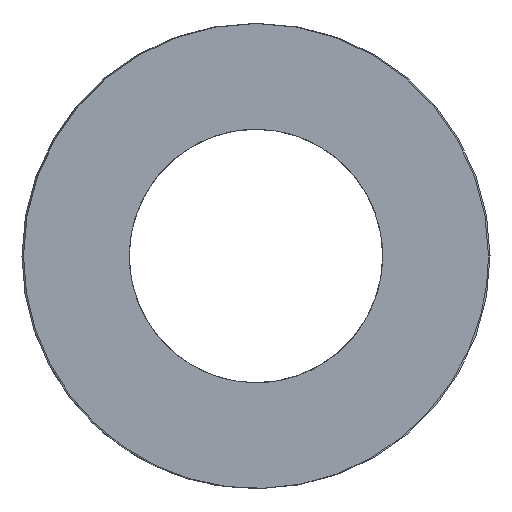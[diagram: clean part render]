
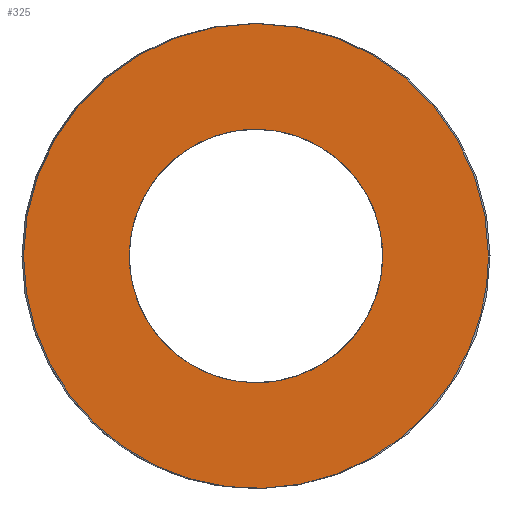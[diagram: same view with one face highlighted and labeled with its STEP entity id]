
A CAD part, left-side view. The second image highlights one B-rep face of the part: STEP entity #325.
In plain terms, the highlighted planar face has unit normal (-1, 0, 0).
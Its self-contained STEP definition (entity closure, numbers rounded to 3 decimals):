
#63=CARTESIAN_POINT('Vertex',(0.,24.4,0.)) ;
#89=CARTESIAN_POINT('Vertex',(0.,-24.4,0.)) ;
#93=CARTESIAN_POINT('Control Point',(0.,24.4,0.)) ;
#94=CARTESIAN_POINT('Control Point',(0.,24.4,-3.833)) ;
#95=CARTESIAN_POINT('Control Point',(0.,23.647,-7.665)) ;
#96=CARTESIAN_POINT('Control Point',(0.,22.142,-11.301)) ;
#97=CARTESIAN_POINT('Control Point',(0.,17.786,-17.786)) ;
#98=CARTESIAN_POINT('Control Point',(0.,11.301,-22.142)) ;
#99=CARTESIAN_POINT('Control Point',(0.,7.665,-23.647)) ;
#100=CARTESIAN_POINT('Control Point',(0.,0.,-25.153)) ;
#101=CARTESIAN_POINT('Control Point',(0.,-7.665,-23.647)) ;
#102=CARTESIAN_POINT('Control Point',(0.,-11.301,-22.142)) ;
#103=CARTESIAN_POINT('Control Point',(0.,-17.786,-17.786)) ;
#104=CARTESIAN_POINT('Control Point',(0.,-22.142,-11.301)) ;
#105=CARTESIAN_POINT('Control Point',(0.,-23.647,-7.665)) ;
#106=CARTESIAN_POINT('Control Point',(0.,-24.4,-3.833)) ;
#107=CARTESIAN_POINT('Control Point',(0.,-24.4,0.)) ;
#121=CARTESIAN_POINT('Axis2P3D Location',(0.,0.,0.)) ;
#256=CARTESIAN_POINT('Axis2P3D Location',(0.,12.2,0.)) ;
#266=CARTESIAN_POINT('Control Point',(0.,0.,-13.3)) ;
#267=CARTESIAN_POINT('Control Point',(0.,1.251,-13.3)) ;
#268=CARTESIAN_POINT('Control Point',(0.,2.501,-13.153)) ;
#269=CARTESIAN_POINT('Control Point',(0.,3.729,-12.859)) ;
#270=CARTESIAN_POINT('Control Point',(0.,6.092,-11.988)) ;
#271=CARTESIAN_POINT('Control Point',(0.,8.189,-10.593)) ;
#272=CARTESIAN_POINT('Control Point',(0.,9.15,-9.774)) ;
#273=CARTESIAN_POINT('Control Point',(0.,10.862,-7.927)) ;
#274=CARTESIAN_POINT('Control Point',(0.,12.099,-5.734)) ;
#275=CARTESIAN_POINT('Control Point',(0.,12.585,-4.569)) ;
#276=CARTESIAN_POINT('Control Point',(0.,13.275,-2.146)) ;
#277=CARTESIAN_POINT('Control Point',(0.,13.384,0.37)) ;
#278=CARTESIAN_POINT('Control Point',(0.,13.289,1.628)) ;
#279=CARTESIAN_POINT('Control Point',(0.,12.807,4.1)) ;
#280=CARTESIAN_POINT('Control Point',(0.,11.764,6.393)) ;
#281=CARTESIAN_POINT('Control Point',(0.,11.11,7.472)) ;
#282=CARTESIAN_POINT('Control Point',(0.,9.56,9.457)) ;
#283=CARTESIAN_POINT('Control Point',(0.,7.591,11.029)) ;
#284=CARTESIAN_POINT('Control Point',(0.,6.519,11.694)) ;
#285=CARTESIAN_POINT('Control Point',(0.,4.601,12.592)) ;
#286=CARTESIAN_POINT('Control Point',(0.,2.551,13.095)) ;
#287=CARTESIAN_POINT('Control Point',(0.,1.706,13.232)) ;
#288=CARTESIAN_POINT('Control Point',(0.,0.853,13.3)) ;
#289=CARTESIAN_POINT('Control Point',(0.,0.,13.3)) ;
#290=CARTESIAN_POINT('Vertex',(0.,0.,-13.3)) ;
#292=CARTESIAN_POINT('Vertex',(0.,0.,13.3)) ;
#296=CARTESIAN_POINT('Control Point',(0.,0.,13.3)) ;
#297=CARTESIAN_POINT('Control Point',(0.,-1.251,13.3)) ;
#298=CARTESIAN_POINT('Control Point',(0.,-2.501,13.153)) ;
#299=CARTESIAN_POINT('Control Point',(0.,-3.729,12.859)) ;
#300=CARTESIAN_POINT('Control Point',(0.,-6.092,11.988)) ;
#301=CARTESIAN_POINT('Control Point',(0.,-8.189,10.593)) ;
#302=CARTESIAN_POINT('Control Point',(0.,-9.15,9.774)) ;
#303=CARTESIAN_POINT('Control Point',(0.,-10.862,7.927)) ;
#304=CARTESIAN_POINT('Control Point',(0.,-12.099,5.734)) ;
#305=CARTESIAN_POINT('Control Point',(0.,-12.585,4.569)) ;
#306=CARTESIAN_POINT('Control Point',(0.,-13.275,2.146)) ;
#307=CARTESIAN_POINT('Control Point',(0.,-13.384,-0.37)) ;
#308=CARTESIAN_POINT('Control Point',(0.,-13.289,-1.628)) ;
#309=CARTESIAN_POINT('Control Point',(0.,-12.807,-4.1)) ;
#310=CARTESIAN_POINT('Control Point',(0.,-11.764,-6.393)) ;
#311=CARTESIAN_POINT('Control Point',(0.,-11.11,-7.472)) ;
#312=CARTESIAN_POINT('Control Point',(0.,-9.56,-9.457)) ;
#313=CARTESIAN_POINT('Control Point',(0.,-7.591,-11.029)) ;
#314=CARTESIAN_POINT('Control Point',(0.,-6.519,-11.694)) ;
#315=CARTESIAN_POINT('Control Point',(0.,-4.601,-12.592)) ;
#316=CARTESIAN_POINT('Control Point',(0.,-2.551,-13.095)) ;
#317=CARTESIAN_POINT('Control Point',(0.,-1.706,-13.232)) ;
#318=CARTESIAN_POINT('Control Point',(0.,-0.853,-13.3)) ;
#319=CARTESIAN_POINT('Control Point',(0.,0.,-13.3)) ;
#122=DIRECTION('Axis2P3D Direction',(1.,-0.,0.)) ;
#257=DIRECTION('Axis2P3D Direction',(-1.,0.,0.)) ;
#258=DIRECTION('Axis2P3D XDirection',(0.,1.,0.)) ;
#123=AXIS2_PLACEMENT_3D('Circle Axis2P3D',#121,#122,$) ;
#259=AXIS2_PLACEMENT_3D('Plane Axis2P3D',#256,#257,#258) ;
#262=ORIENTED_EDGE('',*,*,#108,.T.) ;
#263=ORIENTED_EDGE('',*,*,#125,.T.) ;
#322=ORIENTED_EDGE('',*,*,#294,.T.) ;
#323=ORIENTED_EDGE('',*,*,#320,.T.) ;
#324=FACE_BOUND('',#321,.T.) ;
#325=ADVANCED_FACE('392-B50-229',(#264,#324),#260,.T.) ;
#92=B_SPLINE_CURVE_WITH_KNOTS('',5,(#93,#94,#95,#96,#97,#98,#99,#100,#101,#102,#103,#104,#105,#106,#107),.UNSPECIFIED.,.F.,.U.,(6,3,3,3,6),(-38.327,-19.164,0.,19.164,38.327),.UNSPECIFIED.) ;
#265=B_SPLINE_CURVE_WITH_KNOTS('',5,(#266,#267,#268,#269,#270,#271,#272,#273,#274,#275,#276,#277,#278,#279,#280,#281,#282,#283,#284,#285,#286,#287,#288,#289),.UNSPECIFIED.,.F.,.U.,(6,3,3,3,3,3,3,6),(0.,8.843,17.686,26.53,35.373,44.216,53.059,59.09),.UNSPECIFIED.) ;
#295=B_SPLINE_CURVE_WITH_KNOTS('',5,(#296,#297,#298,#299,#300,#301,#302,#303,#304,#305,#306,#307,#308,#309,#310,#311,#312,#313,#314,#315,#316,#317,#318,#319),.UNSPECIFIED.,.F.,.U.,(6,3,3,3,3,3,3,6),(0.,8.843,17.686,26.53,35.373,44.216,53.059,59.09),.UNSPECIFIED.) ;
#124=CIRCLE('generated circle',#123,24.4) ;
#108=EDGE_CURVE('',#64,#90,#92,.T.) ;
#125=EDGE_CURVE('',#90,#64,#124,.F.) ;
#294=EDGE_CURVE('',#291,#293,#265,.T.) ;
#320=EDGE_CURVE('',#293,#291,#295,.T.) ;
#261=EDGE_LOOP('',(#262,#263)) ;
#321=EDGE_LOOP('',(#322,#323)) ;
#264=FACE_OUTER_BOUND('',#261,.T.) ;
#260=PLANE('Plane',#259) ;
#64=VERTEX_POINT('',#63) ;
#90=VERTEX_POINT('',#89) ;
#291=VERTEX_POINT('',#290) ;
#293=VERTEX_POINT('',#292) ;
